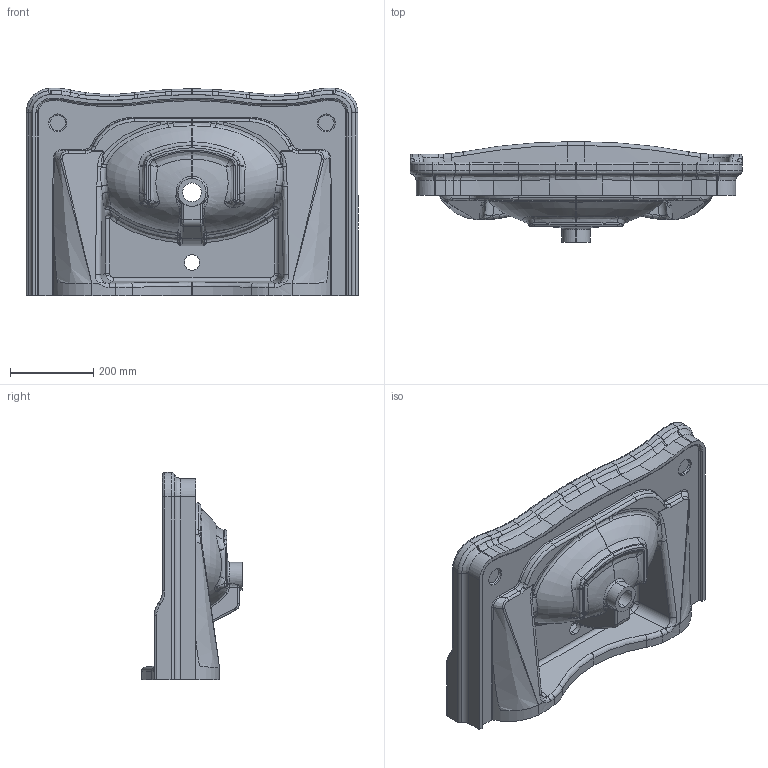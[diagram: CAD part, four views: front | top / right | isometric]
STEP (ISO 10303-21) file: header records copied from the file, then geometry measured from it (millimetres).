
FILE_DESCRIPTION (( 'STEP AP203' ), '1' );
FILE_NAME ('AN080 3D-1.STEP', '2018-07-26T12:28:01', ( '' ), ( '' ), 'SwSTEP 2.0', 'SolidWorks 2018', '' );
FILE_SCHEMA (( 'CONFIG_CONTROL_DESIGN' ));
Length unit declared in the file: millimetre
Products named in the file (1): AN080 3D-1
Bounding box: 798.49 x 242 x 499.41 mm (x, y, z)
Volume: 21570249.1 mm3; surface area: 1291500.6 mm2
Topology: 2 solids, 2 shells, 717 faces, 1759 edges, 1020 vertices
Faces by surface type: bspline 317, cylinder 162, torus 134, plane 51, cone 34, sphere 19
Entity records: 79307 total; most frequent: CARTESIAN_POINT 64958, ORIENTED_EDGE 3450, DIRECTION 2466, EDGE_CURVE 1725, AXIS2_PLACEMENT_3D 1096, VERTEX_POINT 1012, EDGE_LOOP 723, ADVANCED_FACE 717
